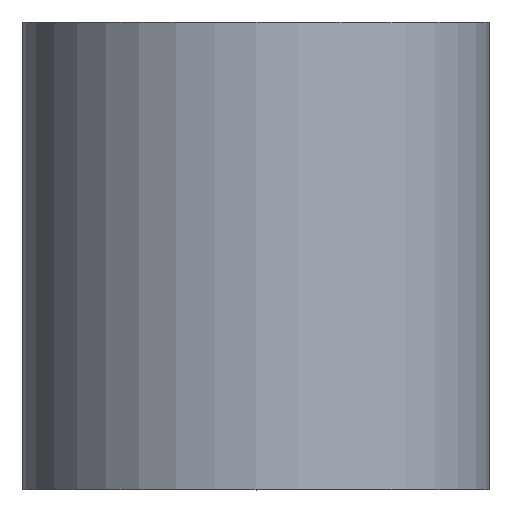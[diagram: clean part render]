
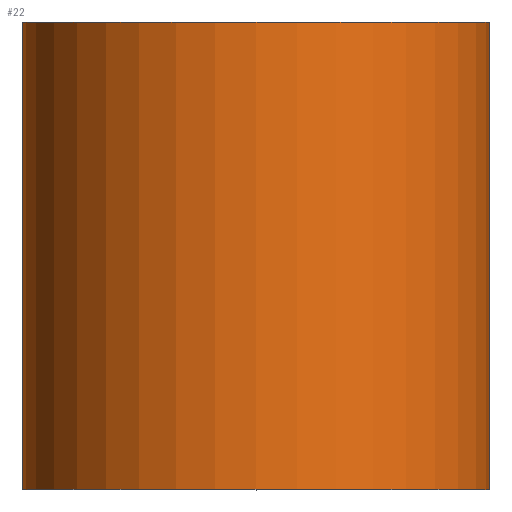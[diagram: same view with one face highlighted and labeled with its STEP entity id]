
A CAD part, top view. The second image highlights one B-rep face of the part: STEP entity #22.
In plain terms, the highlighted cylindrical face has radius 5 mm (diameter 10 mm), a partial arc.
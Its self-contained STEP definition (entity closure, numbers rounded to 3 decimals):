
#22 = ADVANCED_FACE ( 'NONE', ( #234 ), #260, .T. ) ;
#33 = EDGE_LOOP ( 'NONE', ( #37, #128, #231, #235 ) ) ;
#34 = DIRECTION ( 'NONE',  ( 0., 1., 0. ) ) ;
#35 = EDGE_CURVE ( 'NONE', #249, #254, #36, .T. ) ;
#36 = CIRCLE ( 'NONE', #269, 5. ) ;
#37 = ORIENTED_EDGE ( 'NONE', *, *, #106, .T. ) ;
#47 = VECTOR ( 'NONE', #195, 1000. ) ;
#60 = DIRECTION ( 'NONE',  ( -1., 0., 0. ) ) ;
#62 = CARTESIAN_POINT ( 'NONE',  ( -5., 0., 0. ) ) ;
#73 = CARTESIAN_POINT ( 'NONE',  ( 0., 0., 0. ) ) ;
#88 = CIRCLE ( 'NONE', #245, 5. ) ;
#97 = DIRECTION ( 'NONE',  ( -1., 0., 0. ) ) ;
#106 = EDGE_CURVE ( 'NONE', #285, #222, #88, .T. ) ;
#107 = DIRECTION ( 'NONE',  ( 0., 1., 0. ) ) ;
#118 = DIRECTION ( 'NONE',  ( -1., 0., 0. ) ) ;
#128 = ORIENTED_EDGE ( 'NONE', *, *, #143, .T. ) ;
#134 = LINE ( 'NONE', #179, #227 ) ;
#143 = EDGE_CURVE ( 'NONE', #222, #254, #237, .T. ) ;
#152 = CARTESIAN_POINT ( 'NONE',  ( -5., 10., 0. ) ) ;
#166 = CARTESIAN_POINT ( 'NONE',  ( 0., 10., 0. ) ) ;
#167 = AXIS2_PLACEMENT_3D ( 'NONE', #73, #193, #118 ) ;
#170 = CARTESIAN_POINT ( 'NONE',  ( 0., 0., 0. ) ) ;
#179 = CARTESIAN_POINT ( 'NONE',  ( -5., 0., 0. ) ) ;
#193 = DIRECTION ( 'NONE',  ( 0., 1., 0. ) ) ;
#195 = DIRECTION ( 'NONE',  ( 0., 1., 0. ) ) ;
#217 = DIRECTION ( 'NONE',  ( 0., 1., 0. ) ) ;
#222 = VERTEX_POINT ( 'NONE', #297 ) ;
#224 = CARTESIAN_POINT ( 'NONE',  ( 5., 10., 0. ) ) ;
#225 = CARTESIAN_POINT ( 'NONE',  ( 5., 0., 0. ) ) ;
#227 = VECTOR ( 'NONE', #107, 1000. ) ;
#231 = ORIENTED_EDGE ( 'NONE', *, *, #35, .F. ) ;
#234 = FACE_OUTER_BOUND ( 'NONE', #33, .T. ) ;
#235 = ORIENTED_EDGE ( 'NONE', *, *, #294, .F. ) ;
#237 = LINE ( 'NONE', #225, #47 ) ;
#245 = AXIS2_PLACEMENT_3D ( 'NONE', #170, #34, #60 ) ;
#249 = VERTEX_POINT ( 'NONE', #152 ) ;
#254 = VERTEX_POINT ( 'NONE', #224 ) ;
#260 = CYLINDRICAL_SURFACE ( 'NONE', #167, 5. ) ;
#269 = AXIS2_PLACEMENT_3D ( 'NONE', #166, #217, #97 ) ;
#285 = VERTEX_POINT ( 'NONE', #62 ) ;
#294 = EDGE_CURVE ( 'NONE', #285, #249, #134, .T. ) ;
#297 = CARTESIAN_POINT ( 'NONE',  ( 5., 0., 0. ) ) ;
